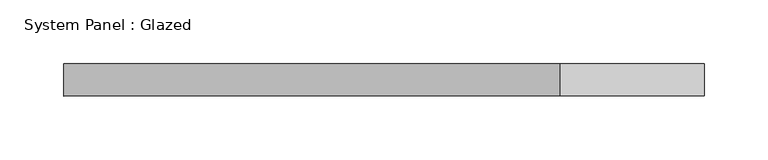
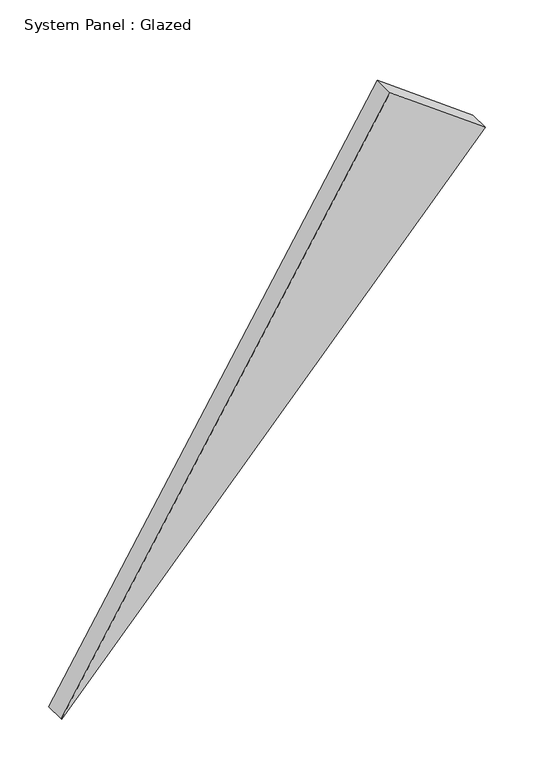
"""IFC4 building model written with IfcOpenShell, lengths in millimetres: plate geometry, System Panel : Glazed."""

from ifc_helpers import new_model, si_unit, frame, origin, place, context, project, spatial, polyline, outline, extrude, source, transform, mapped, element, save


def system_panel_glazed_0f3f0be7(model_context):
    return source(origin(), model_context, "Body", "SweptSolid", [
        extrude(outline(polyline([(0.50171, -251.9953547), (0.0, -251.3133492), (566.0095793, 251.9953547), (649.4991706, 138.5027777), (0.50171, -251.9953547)])), frame((0.0, -44.45, 0.0), z_axis=(0.0, 1.0, 0.0), x_axis=(0.0, 0.0, 1.0)), (0.0, 0.0, 1.0), 25.4),
    ])


if __name__ == "__main__":
    model = new_model("IFC4")
    model_context = context("Model", 3, world=origin())
    ifc_project = project(units=[si_unit("LENGTHUNIT", "METRE", prefix="MILLI")], contexts=[model_context])
    site = spatial("IfcSite", under=ifc_project)
    building = spatial("IfcBuilding", under=site)
    placement = place(None, origin())
    system_panel_glazed_shape = system_panel_glazed_0f3f0be7(model_context)
    element("IfcPlate", 1, ObjectType="System Panel : Glazed", at=placement, inside=building, context=model_context, shape_type="MappedRepresentation", body=[
        mapped(system_panel_glazed_shape, transform((0.0, 0.0, 0.0), x_axis=(1.0, 0.0, 0.0), y_axis=(0.0, 1.0, 0.0), z_axis=(0.0, 0.0, 1.0))),
    ])
    save(model, "model.ifc")
